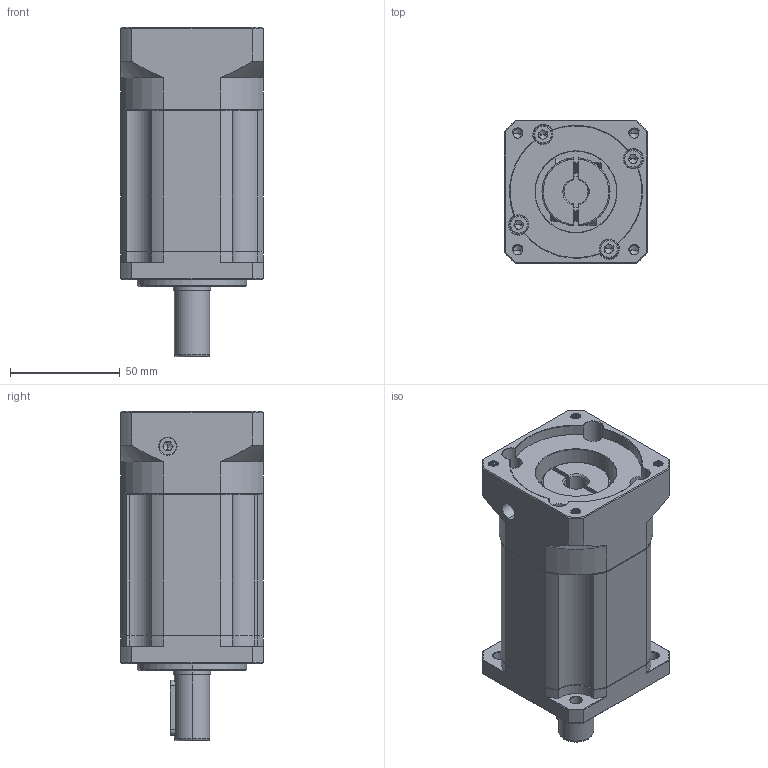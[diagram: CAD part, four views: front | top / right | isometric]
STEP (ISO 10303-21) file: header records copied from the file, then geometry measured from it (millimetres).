
FILE_DESCRIPTION (( 'STEP AP214' ), '1' );
FILE_NAME ('ZB60-D16-L3-11-60-75-M5.STEP', '2022-04-17T07:36:04', ( '' ), ( 'Microsoft' ), 'SwSTEP 2.0', 'SolidWorks 2016', '' );
FILE_SCHEMA (( 'AUTOMOTIVE_DESIGN' ));
Length unit declared in the file: millimetre
Products named in the file (1): ZB60-D16-L3-11-60-75-M5
Bounding box: 65 x 65 x 150 mm (x, y, z)
Volume: 387636.8 mm3; surface area: 62666.8 mm2
Topology: 6 solids, 6 shells, 1894 faces, 5036 edges, 3221 vertices
Faces by surface type: plane 879, cylinder 396, bspline 299, cone 286, torus 34
Entity records: 102153 total; most frequent: CARTESIAN_POINT 36658, ORIENTED_EDGE 10012, DIRECTION 8203, EDGE_CURVE 5006, VERTEX_POINT 3221, VECTOR 3039, LINE 3039, AXIS2_PLACEMENT_3D 2582
